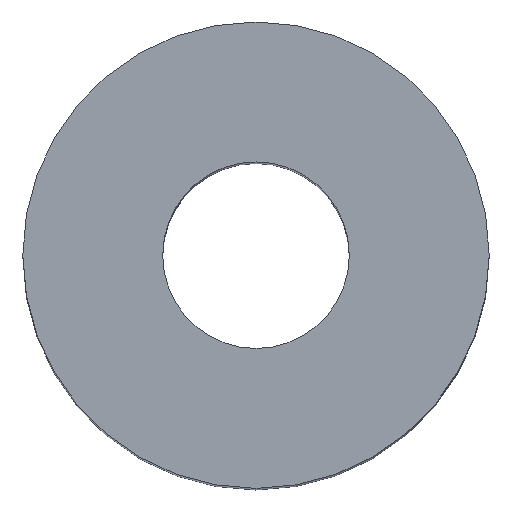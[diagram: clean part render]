
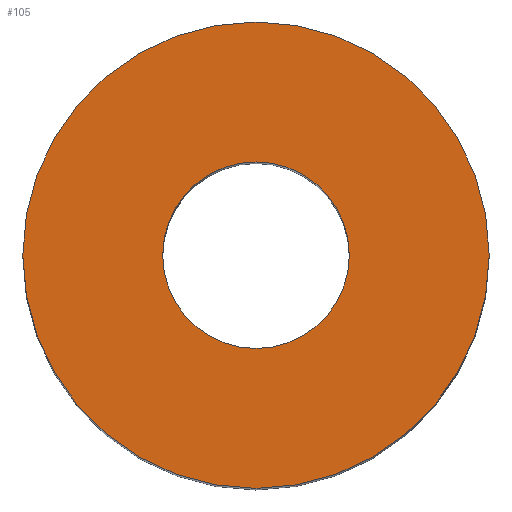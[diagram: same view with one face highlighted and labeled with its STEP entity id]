
A CAD part, top view. The second image highlights one B-rep face of the part: STEP entity #105.
In plain terms, the highlighted planar face has unit normal (0, 0, 1).
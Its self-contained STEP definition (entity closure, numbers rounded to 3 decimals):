
#21 = EDGE_CURVE('',#22,#22,#24,.T.);
#22 = VERTEX_POINT('',#23);
#23 = CARTESIAN_POINT('',(25.,0.,100.));
#24 = SURFACE_CURVE('',#25,(#30,#42),.PCURVE_S1.);
#25 = CIRCLE('',#26,25.);
#26 = AXIS2_PLACEMENT_3D('',#27,#28,#29);
#27 = CARTESIAN_POINT('',(0.,0.,100.));
#28 = DIRECTION('',(0.,0.,1.));
#29 = DIRECTION('',(1.,0.,-0.));
#30 = PCURVE('',#31,#36);
#31 = CYLINDRICAL_SURFACE('',#32,25.);
#32 = AXIS2_PLACEMENT_3D('',#33,#34,#35);
#33 = CARTESIAN_POINT('',(0.,0.,0.));
#34 = DIRECTION('',(0.,0.,1.));
#35 = DIRECTION('',(1.,0.,-0.));
#36 = DEFINITIONAL_REPRESENTATION('',(#37),#41);
#37 = LINE('',#38,#39);
#38 = CARTESIAN_POINT('',(0.,100.));
#39 = VECTOR('',#40,1.);
#40 = DIRECTION('',(1.,0.));
#41 = ( GEOMETRIC_REPRESENTATION_CONTEXT(2) 
PARAMETRIC_REPRESENTATION_CONTEXT() REPRESENTATION_CONTEXT('2D SPACE',''
  ) );
#42 = PCURVE('',#43,#48);
#43 = PLANE('',#44);
#44 = AXIS2_PLACEMENT_3D('',#45,#46,#47);
#45 = CARTESIAN_POINT('',(0.,0.,100.));
#46 = DIRECTION('',(0.,0.,1.));
#47 = DIRECTION('',(1.,0.,-0.));
#48 = DEFINITIONAL_REPRESENTATION('',(#49),#53);
#49 = CIRCLE('',#50,25.);
#50 = AXIS2_PLACEMENT_2D('',#51,#52);
#51 = CARTESIAN_POINT('',(0.,0.));
#52 = DIRECTION('',(1.,0.));
#53 = ( GEOMETRIC_REPRESENTATION_CONTEXT(2) 
PARAMETRIC_REPRESENTATION_CONTEXT() REPRESENTATION_CONTEXT('2D SPACE',''
  ) );
#105 = ADVANCED_FACE('',(#106,#109),#43,.T.);
#106 = FACE_BOUND('',#107,.T.);
#107 = EDGE_LOOP('',(#108));
#108 = ORIENTED_EDGE('',*,*,#21,.T.);
#109 = FACE_BOUND('',#110,.T.);
#110 = EDGE_LOOP('',(#111));
#111 = ORIENTED_EDGE('',*,*,#112,.F.);
#112 = EDGE_CURVE('',#113,#113,#115,.T.);
#113 = VERTEX_POINT('',#114);
#114 = CARTESIAN_POINT('',(10.,0.,100.));
#115 = SURFACE_CURVE('',#116,(#121,#128),.PCURVE_S1.);
#116 = CIRCLE('',#117,10.);
#117 = AXIS2_PLACEMENT_3D('',#118,#119,#120);
#118 = CARTESIAN_POINT('',(0.,0.,100.));
#119 = DIRECTION('',(0.,0.,1.));
#120 = DIRECTION('',(1.,0.,-0.));
#121 = PCURVE('',#43,#122);
#122 = DEFINITIONAL_REPRESENTATION('',(#123),#127);
#123 = CIRCLE('',#124,10.);
#124 = AXIS2_PLACEMENT_2D('',#125,#126);
#125 = CARTESIAN_POINT('',(0.,0.));
#126 = DIRECTION('',(1.,0.));
#127 = ( GEOMETRIC_REPRESENTATION_CONTEXT(2) 
PARAMETRIC_REPRESENTATION_CONTEXT() REPRESENTATION_CONTEXT('2D SPACE',''
  ) );
#128 = PCURVE('',#129,#134);
#129 = CYLINDRICAL_SURFACE('',#130,10.);
#130 = AXIS2_PLACEMENT_3D('',#131,#132,#133);
#131 = CARTESIAN_POINT('',(0.,0.,-1.));
#132 = DIRECTION('',(0.,0.,1.));
#133 = DIRECTION('',(1.,0.,-0.));
#134 = DEFINITIONAL_REPRESENTATION('',(#135),#139);
#135 = LINE('',#136,#137);
#136 = CARTESIAN_POINT('',(0.,101.));
#137 = VECTOR('',#138,1.);
#138 = DIRECTION('',(1.,0.));
#139 = ( GEOMETRIC_REPRESENTATION_CONTEXT(2) 
PARAMETRIC_REPRESENTATION_CONTEXT() REPRESENTATION_CONTEXT('2D SPACE',''
  ) );
